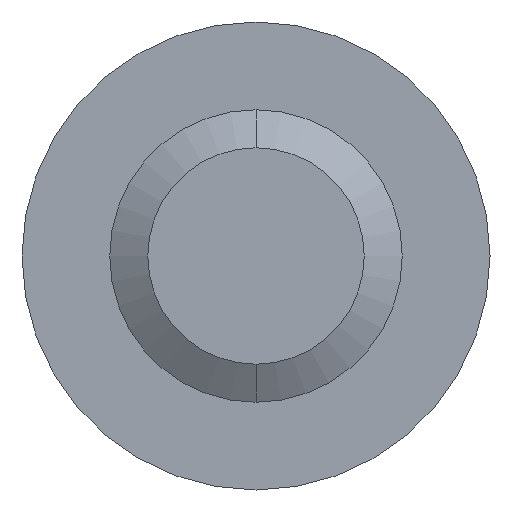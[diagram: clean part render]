
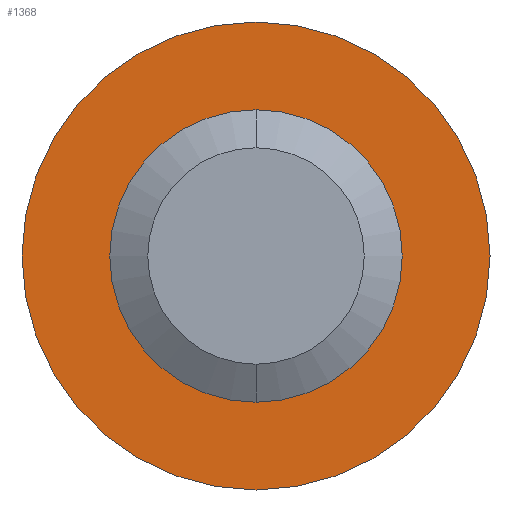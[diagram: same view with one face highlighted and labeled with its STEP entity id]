
A CAD part, front view. The second image highlights one B-rep face of the part: STEP entity #1368.
In plain terms, the highlighted planar face has unit normal (0, -1, 0).
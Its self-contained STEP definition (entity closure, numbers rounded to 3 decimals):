
#66 = EDGE_LOOP ( 'NONE', ( #1934, #1567 ) ) ;
#141 = EDGE_CURVE ( 'NONE', #2640, #1508, #1989, .T. ) ;
#187 = AXIS2_PLACEMENT_3D ( 'NONE', #842, #2719, #796 ) ;
#464 = AXIS2_PLACEMENT_3D ( 'NONE', #2650, #530, #1819 ) ;
#470 = EDGE_LOOP ( 'NONE', ( #1746, #1431 ) ) ;
#530 = DIRECTION ( 'NONE',  ( 0., 1., 0. ) ) ;
#540 = AXIS2_PLACEMENT_3D ( 'NONE', #2707, #2542, #605 ) ;
#589 = AXIS2_PLACEMENT_3D ( 'NONE', #2341, #1242, #1885 ) ;
#605 = DIRECTION ( 'NONE',  ( 0., 0., 1. ) ) ;
#675 = VERTEX_POINT ( 'NONE', #1415 ) ;
#728 = CIRCLE ( 'NONE', #589, 5. ) ;
#796 = DIRECTION ( 'NONE',  ( 0., 0., 1. ) ) ;
#816 = CARTESIAN_POINT ( 'NONE',  ( 0., 30., -5. ) ) ;
#818 = CIRCLE ( 'NONE', #187, 8. ) ;
#842 = CARTESIAN_POINT ( 'NONE',  ( 0., 30., 0. ) ) ;
#922 = AXIS2_PLACEMENT_3D ( 'NONE', #2452, #1799, #1202 ) ;
#959 = FACE_BOUND ( 'NONE', #66, .T. ) ;
#1202 = DIRECTION ( 'NONE',  ( 0., 0., 1. ) ) ;
#1242 = DIRECTION ( 'NONE',  ( 0., 1., 0. ) ) ;
#1368 = ADVANCED_FACE ( 'NONE', ( #2494, #959 ), #2262, .F. ) ;
#1394 = EDGE_CURVE ( 'NONE', #2163, #675, #2132, .T. ) ;
#1415 = CARTESIAN_POINT ( 'NONE',  ( 0., 30., 5. ) ) ;
#1431 = ORIENTED_EDGE ( 'NONE', *, *, #141, .F. ) ;
#1508 = VERTEX_POINT ( 'NONE', #2567 ) ;
#1567 = ORIENTED_EDGE ( 'NONE', *, *, #1614, .T. ) ;
#1606 = EDGE_CURVE ( 'NONE', #1508, #2640, #818, .T. ) ;
#1614 = EDGE_CURVE ( 'NONE', #675, #2163, #728, .T. ) ;
#1746 = ORIENTED_EDGE ( 'NONE', *, *, #1606, .F. ) ;
#1799 = DIRECTION ( 'NONE',  ( 0., 1., 0. ) ) ;
#1819 = DIRECTION ( 'NONE',  ( 0., 0., 1. ) ) ;
#1885 = DIRECTION ( 'NONE',  ( 0., 0., 1. ) ) ;
#1934 = ORIENTED_EDGE ( 'NONE', *, *, #1394, .T. ) ;
#1989 = CIRCLE ( 'NONE', #540, 8. ) ;
#2132 = CIRCLE ( 'NONE', #922, 5. ) ;
#2163 = VERTEX_POINT ( 'NONE', #816 ) ;
#2232 = CARTESIAN_POINT ( 'NONE',  ( 0., 30., 8. ) ) ;
#2262 = PLANE ( 'NONE',  #464 ) ;
#2341 = CARTESIAN_POINT ( 'NONE',  ( 0., 30., 0. ) ) ;
#2452 = CARTESIAN_POINT ( 'NONE',  ( 0., 30., 0. ) ) ;
#2494 = FACE_OUTER_BOUND ( 'NONE', #470, .T. ) ;
#2542 = DIRECTION ( 'NONE',  ( 0., 1., 0. ) ) ;
#2567 = CARTESIAN_POINT ( 'NONE',  ( 0., 30., -8. ) ) ;
#2640 = VERTEX_POINT ( 'NONE', #2232 ) ;
#2650 = CARTESIAN_POINT ( 'NONE',  ( 0., 30., 0. ) ) ;
#2707 = CARTESIAN_POINT ( 'NONE',  ( 0., 30., 0. ) ) ;
#2719 = DIRECTION ( 'NONE',  ( 0., 1., 0. ) ) ;
